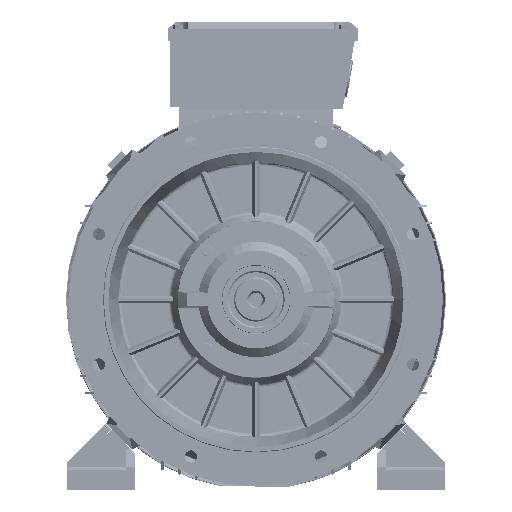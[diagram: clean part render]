
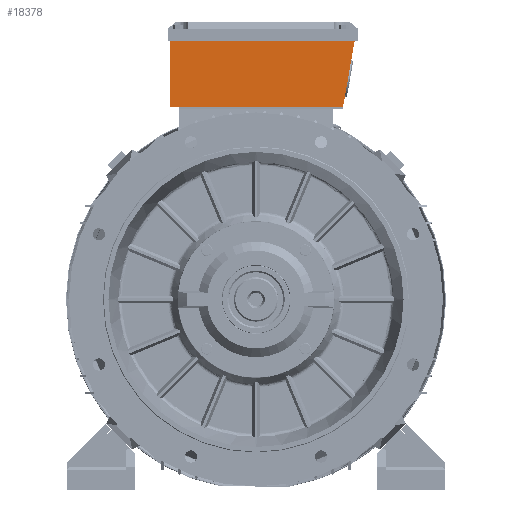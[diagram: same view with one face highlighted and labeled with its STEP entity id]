
A CAD part, left-side view. The second image highlights one B-rep face of the part: STEP entity #18378.
In plain terms, the highlighted planar face has unit normal (-1, 0, 0) as drawn and (0, 0, 1) by its records, which use the part's own axes.
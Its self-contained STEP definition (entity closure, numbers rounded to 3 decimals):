
#18129 = EDGE_CURVE ( 'NONE', #18130, #18211, #92615, .T. ) ;
#18130 = VERTEX_POINT ( 'NONE', #92605 ) ;
#18211 = VERTEX_POINT ( 'NONE', #93352 ) ;
#18378 = ADVANCED_FACE ( 'NONE', ( #94369 ), #87762, .T. ) ;
#18379 = EDGE_LOOP ( 'NONE', ( #18380, #18423, #18426, #18430 ) ) ;
#18380 = ORIENTED_EDGE ( 'NONE', *, *, #18419, .T. ) ;
#18419 = EDGE_CURVE ( 'NONE', #18420, #18130, #94644, .T. ) ;
#18420 = VERTEX_POINT ( 'NONE', #94628 ) ;
#18423 = ORIENTED_EDGE ( 'NONE', *, *, #18129, .T. ) ;
#18426 = ORIENTED_EDGE ( 'NONE', *, *, #18428, .T. ) ;
#18428 = EDGE_CURVE ( 'NONE', #18211, #18429, #94852, .T. ) ;
#18429 = VERTEX_POINT ( 'NONE', #94842 ) ;
#18430 = ORIENTED_EDGE ( 'NONE', *, *, #18431, .T. ) ;
#18431 = EDGE_CURVE ( 'NONE', #18429, #18420, #94829, .T. ) ;
#86668 = DIRECTION ( 'NONE',  ( 1., 0., 0. ) ) ;
#86682 = DIRECTION ( 'NONE',  ( 0., 0., 1. ) ) ;
#87758 = CARTESIAN_POINT ( 'NONE',  ( 13.5, 0., 118.5 ) ) ;
#87760 = AXIS2_PLACEMENT_3D ( 'NONE', #87758, #86682, #86668 ) ;
#87762 = PLANE ( 'NONE',  #87760 ) ;
#92605 = CARTESIAN_POINT ( 'NONE',  ( 253.929, 3., 118.5 ) ) ;
#92607 = DIRECTION ( 'NONE',  ( 0.174, 0.985, 0. ) ) ;
#92609 = VECTOR ( 'NONE', #92607, 1000. ) ;
#92612 = CARTESIAN_POINT ( 'NONE',  ( 253.4, 0., 118.5 ) ) ;
#92615 = LINE ( 'NONE', #92612, #92609 ) ;
#93352 = CARTESIAN_POINT ( 'NONE',  ( 271.033, 100., 118.5 ) ) ;
#94369 = FACE_OUTER_BOUND ( 'NONE', #18379, .T. ) ;
#94628 = CARTESIAN_POINT ( 'NONE',  ( 0., 3., 118.5 ) ) ;
#94632 = DIRECTION ( 'NONE',  ( 1., 0., 0. ) ) ;
#94634 = VECTOR ( 'NONE', #94632, 1000. ) ;
#94637 = CARTESIAN_POINT ( 'NONE',  ( 0., 3., 118.5 ) ) ;
#94644 = LINE ( 'NONE', #94637, #94634 ) ;
#94823 = DIRECTION ( 'NONE',  ( 0., -1., 0. ) ) ;
#94824 = VECTOR ( 'NONE', #94823, 1000. ) ;
#94827 = CARTESIAN_POINT ( 'NONE',  ( 0., 3., 118.5 ) ) ;
#94829 = LINE ( 'NONE', #94827, #94824 ) ;
#94842 = CARTESIAN_POINT ( 'NONE',  ( 0., 100., 118.5 ) ) ;
#94845 = DIRECTION ( 'NONE',  ( -1., 0., 0. ) ) ;
#94847 = VECTOR ( 'NONE', #94845, 1000. ) ;
#94848 = CARTESIAN_POINT ( 'NONE',  ( 0., 100., 118.5 ) ) ;
#94852 = LINE ( 'NONE', #94848, #94847 ) ;
